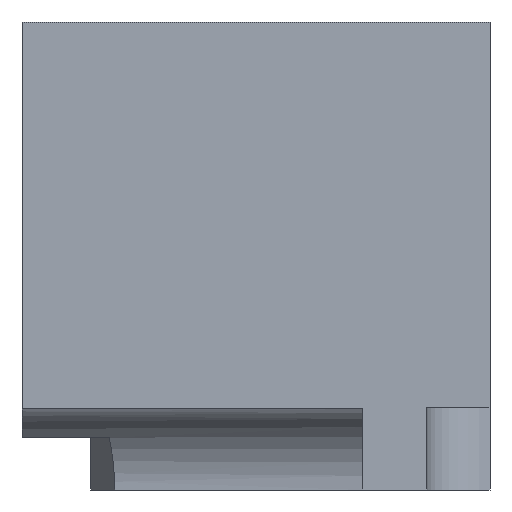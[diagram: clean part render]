
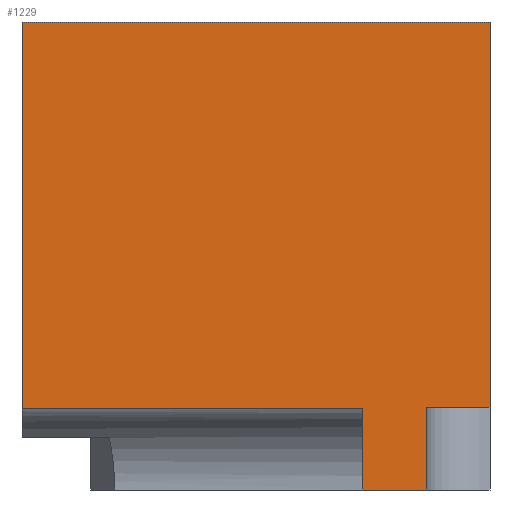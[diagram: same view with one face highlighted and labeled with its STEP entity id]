
A CAD part, left-side view. The second image highlights one B-rep face of the part: STEP entity #1229.
In plain terms, the highlighted planar face has unit normal (-1, 0, 0).
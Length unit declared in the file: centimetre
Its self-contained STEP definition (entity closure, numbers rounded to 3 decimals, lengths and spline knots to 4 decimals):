
#31 = DIRECTION ( 'NONE',  ( 0., 0., -1. ) ) ;
#38 = CARTESIAN_POINT ( 'NONE',  ( 0., 134.6476, 176.6661 ) ) ;
#41 = VERTEX_POINT ( 'NONE', #1201 ) ;
#84 = DIRECTION ( 'NONE',  ( 0., -1., 0. ) ) ;
#89 = VECTOR ( 'NONE', #787, 100. ) ;
#104 = EDGE_LOOP ( 'NONE', ( #1314, #761, #132, #1189, #749, #152, #977, #935 ) ) ;
#132 = ORIENTED_EDGE ( 'NONE', *, *, #1064, .F. ) ;
#145 = VECTOR ( 'NONE', #84, 100. ) ;
#152 = ORIENTED_EDGE ( 'NONE', *, *, #1149, .T. ) ;
#173 = VECTOR ( 'NONE', #31, 100. ) ;
#244 = VERTEX_POINT ( 'NONE', #1170 ) ;
#294 = LINE ( 'NONE', #696, #1330 ) ;
#337 = VECTOR ( 'NONE', #1203, 100. ) ;
#377 = LINE ( 'NONE', #990, #337 ) ;
#379 = CARTESIAN_POINT ( 'NONE',  ( 0., 1000., 1000. ) ) ;
#383 = CARTESIAN_POINT ( 'NONE',  ( 0., 1000., 1000. ) ) ;
#397 = CARTESIAN_POINT ( 'NONE',  ( 0., 1000., 0. ) ) ;
#407 = VECTOR ( 'NONE', #879, 100. ) ;
#435 = VERTEX_POINT ( 'NONE', #379 ) ;
#454 = EDGE_CURVE ( 'NONE', #1335, #784, #294, .T. ) ;
#467 = LINE ( 'NONE', #1310, #145 ) ;
#521 = AXIS2_PLACEMENT_3D ( 'NONE', #383, #1015, #902 ) ;
#594 = DIRECTION ( 'NONE',  ( 0., -1., 0. ) ) ;
#615 = VERTEX_POINT ( 'NONE', #616 ) ;
#616 = CARTESIAN_POINT ( 'NONE',  ( 0., 271.9473, 0. ) ) ;
#635 = CARTESIAN_POINT ( 'NONE',  ( 0., 0., 1000. ) ) ;
#696 = CARTESIAN_POINT ( 'NONE',  ( 0., 134.6476, 176.6661 ) ) ;
#701 = PLANE ( 'NONE',  #521 ) ;
#712 = VECTOR ( 'NONE', #594, 100. ) ;
#749 = ORIENTED_EDGE ( 'NONE', *, *, #986, .F. ) ;
#754 = VERTEX_POINT ( 'NONE', #860 ) ;
#761 = ORIENTED_EDGE ( 'NONE', *, *, #454, .T. ) ;
#784 = VERTEX_POINT ( 'NONE', #38 ) ;
#787 = DIRECTION ( 'NONE',  ( 0., 0., 1. ) ) ;
#795 = LINE ( 'NONE', #397, #929 ) ;
#802 = LINE ( 'NONE', #1110, #712 ) ;
#828 = EDGE_CURVE ( 'NONE', #41, #754, #954, .T. ) ;
#860 = CARTESIAN_POINT ( 'NONE',  ( 0., 0., 176.6661 ) ) ;
#879 = DIRECTION ( 'NONE',  ( 0., 1., 0. ) ) ;
#898 = VERTEX_POINT ( 'NONE', #971 ) ;
#902 = DIRECTION ( 'NONE',  ( 0., 0., -1. ) ) ;
#929 = VECTOR ( 'NONE', #1211, 100. ) ;
#935 = ORIENTED_EDGE ( 'NONE', *, *, #1154, .F. ) ;
#954 = LINE ( 'NONE', #635, #173 ) ;
#971 = CARTESIAN_POINT ( 'NONE',  ( 0., 1000., 175.1963 ) ) ;
#973 = CARTESIAN_POINT ( 'NONE',  ( 0., 271.9473, 1000. ) ) ;
#977 = ORIENTED_EDGE ( 'NONE', *, *, #1262, .T. ) ;
#986 = EDGE_CURVE ( 'NONE', #435, #41, #467, .T. ) ;
#990 = CARTESIAN_POINT ( 'NONE',  ( 0., 1000., 1000. ) ) ;
#1015 = DIRECTION ( 'NONE',  ( 1., 0., 0. ) ) ;
#1021 = FACE_OUTER_BOUND ( 'NONE', #104, .T. ) ;
#1064 = EDGE_CURVE ( 'NONE', #754, #784, #1303, .T. ) ;
#1110 = CARTESIAN_POINT ( 'NONE',  ( 0., 271.9473, 175.1963 ) ) ;
#1149 = EDGE_CURVE ( 'NONE', #435, #898, #377, .T. ) ;
#1154 = EDGE_CURVE ( 'NONE', #615, #244, #1285, .T. ) ;
#1170 = CARTESIAN_POINT ( 'NONE',  ( 0., 271.9473, 175.1963 ) ) ;
#1189 = ORIENTED_EDGE ( 'NONE', *, *, #828, .F. ) ;
#1201 = CARTESIAN_POINT ( 'NONE',  ( 0., 0., 1000. ) ) ;
#1202 = CARTESIAN_POINT ( 'NONE',  ( 0., 1000., 176.6661 ) ) ;
#1203 = DIRECTION ( 'NONE',  ( 0., 0., -1. ) ) ;
#1207 = DIRECTION ( 'NONE',  ( 0., 0., 1. ) ) ;
#1211 = DIRECTION ( 'NONE',  ( 0., -1., 0. ) ) ;
#1229 = ADVANCED_FACE ( 'NONE', ( #1021 ), #701, .F. ) ;
#1262 = EDGE_CURVE ( 'NONE', #898, #244, #802, .T. ) ;
#1285 = LINE ( 'NONE', #973, #89 ) ;
#1302 = EDGE_CURVE ( 'NONE', #615, #1335, #795, .T. ) ;
#1303 = LINE ( 'NONE', #1202, #407 ) ;
#1310 = CARTESIAN_POINT ( 'NONE',  ( 0., 1000., 1000. ) ) ;
#1314 = ORIENTED_EDGE ( 'NONE', *, *, #1302, .T. ) ;
#1328 = CARTESIAN_POINT ( 'NONE',  ( 0., 134.6476, 0. ) ) ;
#1330 = VECTOR ( 'NONE', #1207, 100. ) ;
#1335 = VERTEX_POINT ( 'NONE', #1328 ) ;
